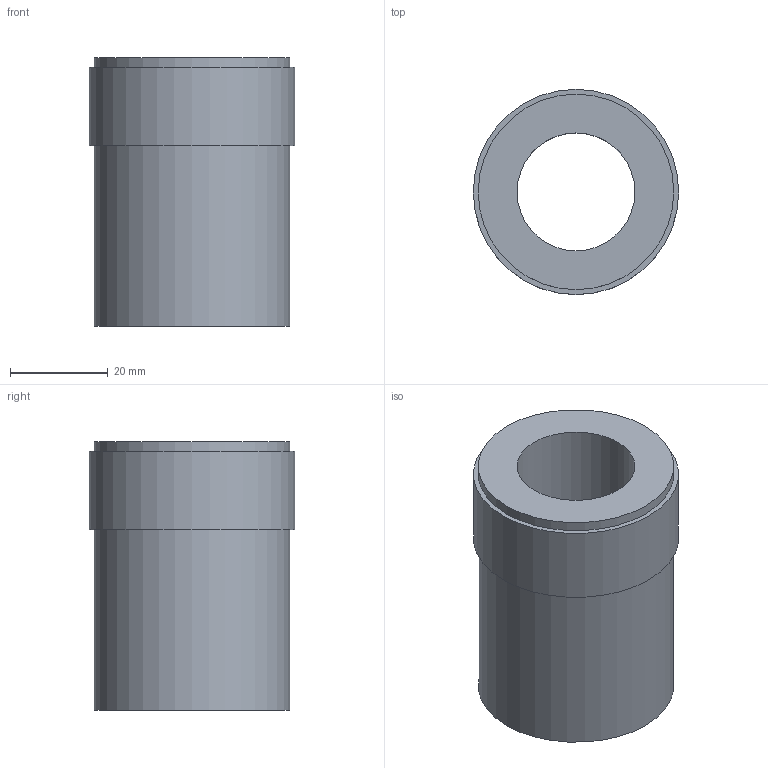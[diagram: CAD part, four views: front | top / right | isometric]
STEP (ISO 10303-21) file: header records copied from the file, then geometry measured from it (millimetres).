
FILE_DESCRIPTION(/* description */ (''),/* implementation_level */ '2;1');
FILE_NAME(/* name */ 'Z:\Geberit\Export\NewStep\360720.stp',/* time_stamp */ '2014-04-01T21:01:59+02:00',/* author */ ('nelson'),/* organization */ (''),/* preprocessor_version */ 'ST-DEVELOPER v15.2',/* originating_system */ 'Autodesk Inventor 2014',/* authorisation */ '');
FILE_SCHEMA (('AUTOMOTIVE_DESIGN { 1 0 10303 214 3 1 1 }'));
Length unit declared in the file: millimetre
Products named in the file (1): 360720
Bounding box: 42 x 42 x 55 mm (x, y, z)
Volume: 30245.7 mm3; surface area: 13882.5 mm2
Topology: 1 solids, 1 shells, 11 faces, 21 edges, 14 vertices
Faces by surface type: cylinder 5, plane 4, torus 1, cone 1
Full cylindrical faces by diameter (mm): 24.117 x1, 34 x1, 40 x2, 42 x1
Entity records: 259 total; most frequent: DIRECTION 46, CARTESIAN_POINT 34, AXIS2_PLACEMENT_3D 23, EDGE_LOOP 22, ORIENTED_EDGE 22, FACE_BOUND 14, CIRCLE 11, VERTEX_POINT 11
